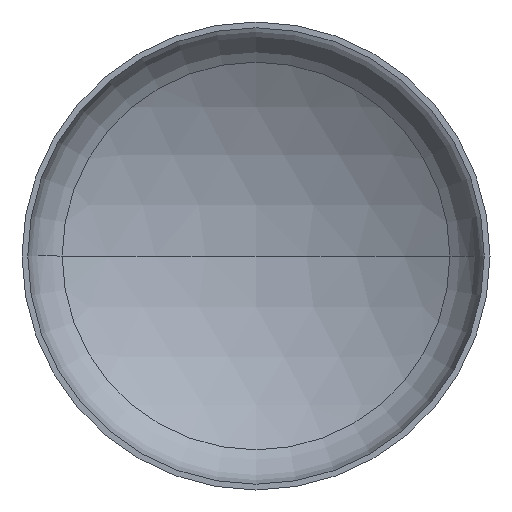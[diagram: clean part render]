
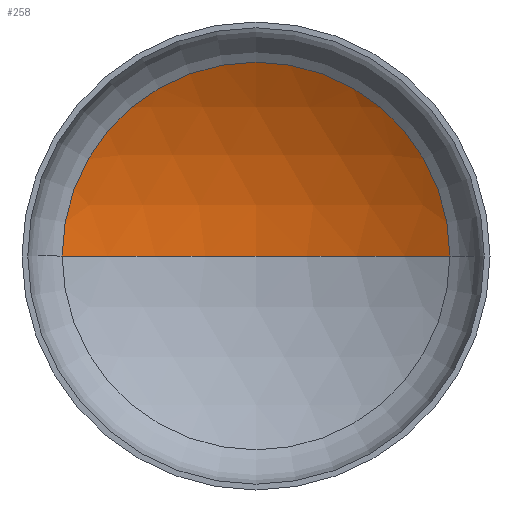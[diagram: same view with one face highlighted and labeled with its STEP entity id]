
A CAD part, front view. The second image highlights one B-rep face of the part: STEP entity #258.
In plain terms, the highlighted spherical face has radius 325 mm.
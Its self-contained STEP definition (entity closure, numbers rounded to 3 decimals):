
#9 = EDGE_LOOP ( 'NONE', ( #32, #271, #148 ) ) ;
#16 = FACE_OUTER_BOUND ( 'NONE', #9, .T. ) ;
#32 = ORIENTED_EDGE ( 'NONE', *, *, #354, .F. ) ;
#37 = VERTEX_POINT ( 'NONE', #276 ) ;
#46 = AXIS2_PLACEMENT_3D ( 'NONE', #54, #254, #167 ) ;
#47 = AXIS2_PLACEMENT_3D ( 'NONE', #247, #259, #257 ) ;
#50 = AXIS2_PLACEMENT_3D ( 'NONE', #209, #205, #206 ) ;
#54 = CARTESIAN_POINT ( 'NONE',  ( 0., -204.986, 0. ) ) ;
#58 = DIRECTION ( 'NONE',  ( 0., 0., 1. ) ) ;
#70 = CARTESIAN_POINT ( 'NONE',  ( 0., -204.986, 0. ) ) ;
#92 = DIRECTION ( 'NONE',  ( 1., 0., 0. ) ) ;
#100 = CIRCLE ( 'NONE', #304, 325. ) ;
#119 = VERTEX_POINT ( 'NONE', #228 ) ;
#148 = ORIENTED_EDGE ( 'NONE', *, *, #172, .T. ) ;
#156 = VERTEX_POINT ( 'NONE', #297 ) ;
#167 = DIRECTION ( 'NONE',  ( -1., 0., 0. ) ) ;
#169 = CIRCLE ( 'NONE', #47, 325. ) ;
#172 = EDGE_CURVE ( 'NONE', #156, #119, #242, .T. ) ;
#175 = EDGE_CURVE ( 'NONE', #37, #156, #169, .T. ) ;
#205 = DIRECTION ( 'NONE',  ( 0., -1., 0. ) ) ;
#206 = DIRECTION ( 'NONE',  ( 1., 0., 0. ) ) ;
#209 = CARTESIAN_POINT ( 'NONE',  ( 0., 73.038, 0. ) ) ;
#228 = CARTESIAN_POINT ( 'NONE',  ( -168.308, 73.038, 0. ) ) ;
#234 = SPHERICAL_SURFACE ( 'NONE', #46, 325. ) ;
#242 = CIRCLE ( 'NONE', #50, 168.308 ) ;
#247 = CARTESIAN_POINT ( 'NONE',  ( 0., -204.986, 0. ) ) ;
#254 = DIRECTION ( 'NONE',  ( 0., 0., -1. ) ) ;
#257 = DIRECTION ( 'NONE',  ( -1., 0., 0. ) ) ;
#258 = ADVANCED_FACE ( 'NONE', ( #16 ), #234, .F. ) ;
#259 = DIRECTION ( 'NONE',  ( 0., 0., -1. ) ) ;
#271 = ORIENTED_EDGE ( 'NONE', *, *, #175, .T. ) ;
#276 = CARTESIAN_POINT ( 'NONE',  ( 0., 120.014, 0. ) ) ;
#297 = CARTESIAN_POINT ( 'NONE',  ( 168.308, 73.038, 0. ) ) ;
#304 = AXIS2_PLACEMENT_3D ( 'NONE', #70, #58, #92 ) ;
#354 = EDGE_CURVE ( 'NONE', #37, #119, #100, .T. ) ;
